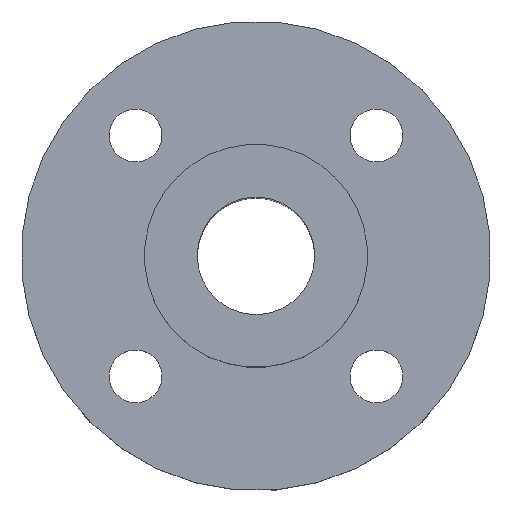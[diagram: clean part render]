
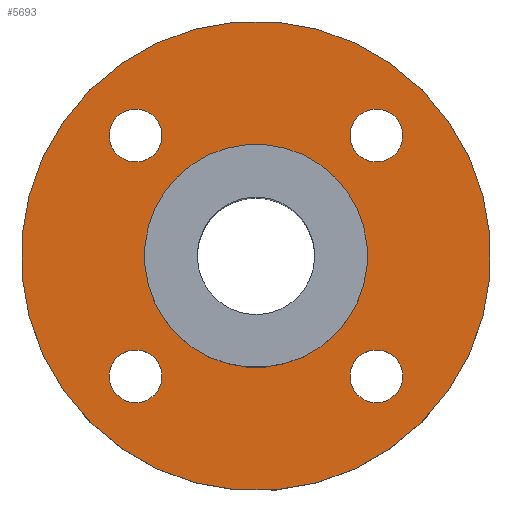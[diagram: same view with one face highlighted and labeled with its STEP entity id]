
A CAD part, top view. The second image highlights one B-rep face of the part: STEP entity #5693.
In plain terms, the highlighted planar face has unit normal (0, 0, 1).
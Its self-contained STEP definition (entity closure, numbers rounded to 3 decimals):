
#115=CIRCLE('',#6055,9.5);
#119=CIRCLE('',#6063,20.);
#120=CIRCLE('',#6065,2.25);
#121=CIRCLE('',#6066,2.25);
#122=CIRCLE('',#6067,2.25);
#123=CIRCLE('',#6068,2.25);
#525=ORIENTED_EDGE('',*,*,#2157,.F.);
#526=ORIENTED_EDGE('',*,*,#2158,.F.);
#527=ORIENTED_EDGE('',*,*,#2159,.F.);
#528=ORIENTED_EDGE('',*,*,#2160,.F.);
#529=ORIENTED_EDGE('',*,*,#2152,.T.);
#530=ORIENTED_EDGE('',*,*,#2156,.T.);
#2152=EDGE_CURVE('',#2971,#2971,#115,.F.);
#2156=EDGE_CURVE('',#2975,#2975,#119,.T.);
#2157=EDGE_CURVE('',#2976,#2976,#120,.T.);
#2158=EDGE_CURVE('',#2977,#2977,#121,.T.);
#2159=EDGE_CURVE('',#2978,#2978,#122,.T.);
#2160=EDGE_CURVE('',#2979,#2979,#123,.T.);
#2971=VERTEX_POINT('',#8982);
#2975=VERTEX_POINT('',#8994);
#2976=VERTEX_POINT('',#8997);
#2977=VERTEX_POINT('',#8999);
#2978=VERTEX_POINT('',#9001);
#2979=VERTEX_POINT('',#9003);
#4659=EDGE_LOOP('',(#525));
#4660=EDGE_LOOP('',(#526));
#4661=EDGE_LOOP('',(#527));
#4662=EDGE_LOOP('',(#528));
#4663=EDGE_LOOP('',(#529));
#4664=EDGE_LOOP('',(#530));
#5074=FACE_BOUND('',#4659,.T.);
#5075=FACE_BOUND('',#4660,.T.);
#5076=FACE_BOUND('',#4661,.T.);
#5077=FACE_BOUND('',#4662,.T.);
#5078=FACE_BOUND('',#4663,.T.);
#5079=FACE_BOUND('',#4664,.T.);
#5431=PLANE('',#6064);
#5693=ADVANCED_FACE('',(#5074,#5075,#5076,#5077,#5078,#5079),#5431,.T.);
#6055=AXIS2_PLACEMENT_3D('',#8981,#6580,#6581);
#6063=AXIS2_PLACEMENT_3D('',#8993,#6596,#6597);
#6064=AXIS2_PLACEMENT_3D('',#8995,#6598,#6599);
#6065=AXIS2_PLACEMENT_3D('',#8996,#6600,#6601);
#6066=AXIS2_PLACEMENT_3D('',#8998,#6602,#6603);
#6067=AXIS2_PLACEMENT_3D('',#9000,#6604,#6605);
#6068=AXIS2_PLACEMENT_3D('',#9002,#6606,#6607);
#6580=DIRECTION('',(0.,0.,1.));
#6581=DIRECTION('',(0.707,-0.707,0.));
#6596=DIRECTION('',(0.,0.,1.));
#6597=DIRECTION('',(0.707,-0.707,0.));
#6598=DIRECTION('',(0.,0.,1.));
#6599=DIRECTION('',(0.707,-0.707,0.));
#6600=DIRECTION('',(0.,0.,1.));
#6601=DIRECTION('',(0.707,-0.707,0.));
#6602=DIRECTION('',(0.,0.,1.));
#6603=DIRECTION('',(0.707,-0.707,0.));
#6604=DIRECTION('',(0.,0.,1.));
#6605=DIRECTION('',(0.707,-0.707,0.));
#6606=DIRECTION('',(0.,0.,1.));
#6607=DIRECTION('',(0.707,-0.707,0.));
#8981=CARTESIAN_POINT('',(0.,0.,0.));
#8982=CARTESIAN_POINT('',(6.718,-6.718,0.));
#8993=CARTESIAN_POINT('',(0.,0.,0.));
#8994=CARTESIAN_POINT('',(14.142,-14.142,0.));
#8995=CARTESIAN_POINT('',(0.,0.,0.));
#8996=CARTESIAN_POINT('',(10.253,10.253,0.));
#8997=CARTESIAN_POINT('',(11.844,8.662,0.));
#8998=CARTESIAN_POINT('',(-10.253,10.253,0.));
#8999=CARTESIAN_POINT('',(-8.662,8.662,0.));
#9000=CARTESIAN_POINT('',(-10.253,-10.253,0.));
#9001=CARTESIAN_POINT('',(-8.662,-11.844,0.));
#9002=CARTESIAN_POINT('',(10.253,-10.253,0.));
#9003=CARTESIAN_POINT('',(11.844,-11.844,0.));
